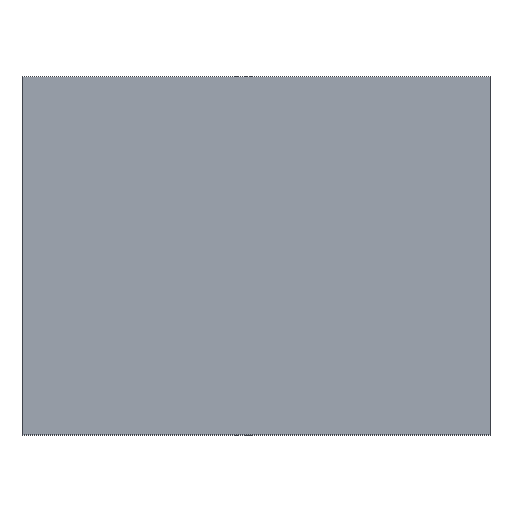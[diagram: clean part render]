
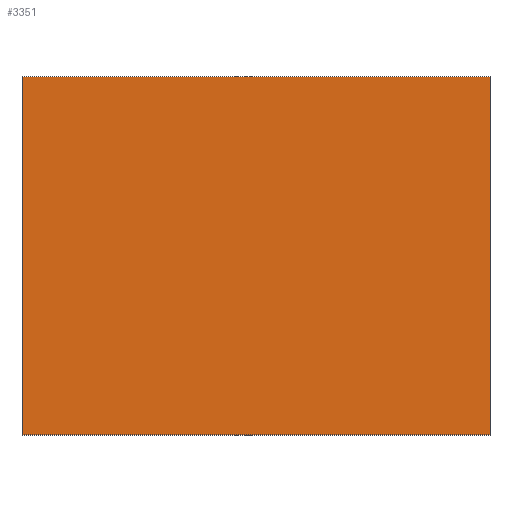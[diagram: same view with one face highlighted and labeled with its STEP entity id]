
A CAD part, top view. The second image highlights one B-rep face of the part: STEP entity #3351.
In plain terms, the highlighted planar face has unit normal (0, 0, 1).
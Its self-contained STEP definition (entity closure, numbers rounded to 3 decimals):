
#3215=CARTESIAN_POINT('Vertex',(106.5,81.5,33.)) ;
#3229=CARTESIAN_POINT('Vertex',(-106.5,81.5,33.)) ;
#3232=CARTESIAN_POINT('Line Origine',(0.,81.5,33.)) ;
#3260=CARTESIAN_POINT('Vertex',(-106.5,-81.5,33.)) ;
#3263=CARTESIAN_POINT('Line Origine',(-106.5,0.,33.)) ;
#3291=CARTESIAN_POINT('Vertex',(106.5,-81.5,33.)) ;
#3294=CARTESIAN_POINT('Line Origine',(0.,-81.5,33.)) ;
#3316=CARTESIAN_POINT('Line Origine',(106.5,0.,33.)) ;
#3340=CARTESIAN_POINT('Axis2P3D Location',(0.,0.,33.)) ;
#3233=DIRECTION('Vector Direction',(1.,0.,0.)) ;
#3264=DIRECTION('Vector Direction',(0.,1.,0.)) ;
#3295=DIRECTION('Vector Direction',(-1.,0.,0.)) ;
#3317=DIRECTION('Vector Direction',(0.,-1.,0.)) ;
#3341=DIRECTION('Axis2P3D Direction',(0.,0.,1.)) ;
#3342=DIRECTION('Axis2P3D XDirection',(1.,0.,0.)) ;
#3343=AXIS2_PLACEMENT_3D('Plane Axis2P3D',#3340,#3341,#3342) ;
#3346=ORIENTED_EDGE('',*,*,#3236,.T.) ;
#3347=ORIENTED_EDGE('',*,*,#3267,.T.) ;
#3348=ORIENTED_EDGE('',*,*,#3298,.T.) ;
#3349=ORIENTED_EDGE('',*,*,#3320,.T.) ;
#3234=VECTOR('Line Direction',#3233,1.) ;
#3265=VECTOR('Line Direction',#3264,1.) ;
#3296=VECTOR('Line Direction',#3295,1.) ;
#3318=VECTOR('Line Direction',#3317,1.) ;
#3351=ADVANCED_FACE('cavity',(#3350),#3344,.T.) ;
#3236=EDGE_CURVE('',#3216,#3230,#3235,.F.) ;
#3267=EDGE_CURVE('',#3230,#3261,#3266,.F.) ;
#3298=EDGE_CURVE('',#3261,#3292,#3297,.F.) ;
#3320=EDGE_CURVE('',#3292,#3216,#3319,.F.) ;
#3345=EDGE_LOOP('',(#3346,#3347,#3348,#3349)) ;
#3350=FACE_OUTER_BOUND('',#3345,.T.) ;
#3235=LINE('Line',#3232,#3234) ;
#3266=LINE('Line',#3263,#3265) ;
#3297=LINE('Line',#3294,#3296) ;
#3319=LINE('Line',#3316,#3318) ;
#3344=PLANE('Plane',#3343) ;
#3216=VERTEX_POINT('',#3215) ;
#3230=VERTEX_POINT('',#3229) ;
#3261=VERTEX_POINT('',#3260) ;
#3292=VERTEX_POINT('',#3291) ;
